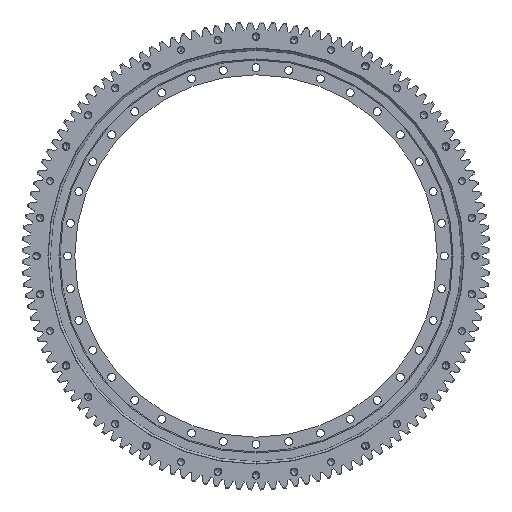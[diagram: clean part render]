
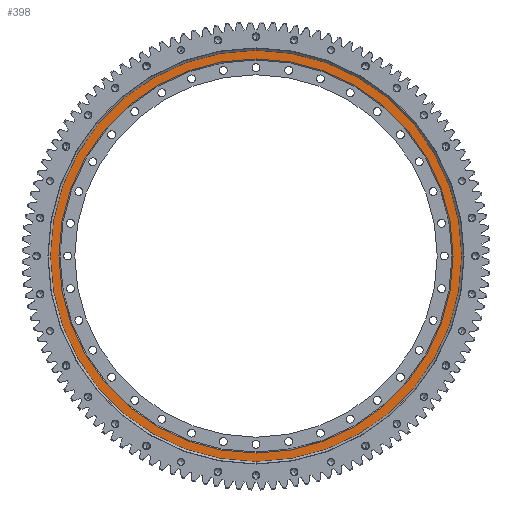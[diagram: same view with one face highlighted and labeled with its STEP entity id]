
A CAD part, front view. The second image highlights one B-rep face of the part: STEP entity #398.
In plain terms, the highlighted planar face has unit normal (0, -1, 0).
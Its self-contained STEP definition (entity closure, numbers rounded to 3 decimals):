
#237 = CIRCLE ( 'NONE', #36732, 546.5 ) ;
#307 = CIRCLE ( 'NONE', #14048, 575.5 ) ;
#398 = ADVANCED_FACE ( 'NONE', ( #4138, #27208 ), #33692, .F. ) ;
#1939 = CARTESIAN_POINT ( 'NONE',  ( 0., 32.469, 546.5 ) ) ;
#2843 = VERTEX_POINT ( 'NONE', #1939 ) ;
#2929 = DIRECTION ( 'NONE',  ( 0., -1., 0. ) ) ;
#3212 = DIRECTION ( 'NONE',  ( 0., -1., 0. ) ) ;
#4138 = FACE_BOUND ( 'NONE', #41321, .T. ) ;
#7572 = DIRECTION ( 'NONE',  ( 0., 1., 0. ) ) ;
#9594 = CARTESIAN_POINT ( 'NONE',  ( 0., 32.469, 0. ) ) ;
#11216 = ORIENTED_EDGE ( 'NONE', *, *, #14809, .F. ) ;
#13266 = CIRCLE ( 'NONE', #36038, 546.5 ) ;
#14048 = AXIS2_PLACEMENT_3D ( 'NONE', #38786, #15916, #42236 ) ;
#14079 = AXIS2_PLACEMENT_3D ( 'NONE', #17069, #7572, #26785 ) ;
#14809 = EDGE_CURVE ( 'NONE', #33604, #2843, #13266, .T. ) ;
#15337 = EDGE_CURVE ( 'NONE', #2843, #33604, #237, .T. ) ;
#15716 = DIRECTION ( 'NONE',  ( 0., 0., -1. ) ) ;
#15916 = DIRECTION ( 'NONE',  ( 0., -1., 0. ) ) ;
#16285 = ORIENTED_EDGE ( 'NONE', *, *, #23745, .T. ) ;
#17069 = CARTESIAN_POINT ( 'NONE',  ( -546.5, 32.469, 0. ) ) ;
#17092 = CARTESIAN_POINT ( 'NONE',  ( 0., 32.469, 0. ) ) ;
#17966 = CARTESIAN_POINT ( 'NONE',  ( 0., 32.469, 575.5 ) ) ;
#18195 = AXIS2_PLACEMENT_3D ( 'NONE', #25209, #3212, #15716 ) ;
#19229 = ORIENTED_EDGE ( 'NONE', *, *, #15337, .F. ) ;
#19932 = DIRECTION ( 'NONE',  ( 0., 0., -1. ) ) ;
#20532 = DIRECTION ( 'NONE',  ( 0., 0., -1. ) ) ;
#23745 = EDGE_CURVE ( 'NONE', #27038, #28196, #35423, .T. ) ;
#23793 = EDGE_CURVE ( 'NONE', #28196, #27038, #307, .T. ) ;
#25209 = CARTESIAN_POINT ( 'NONE',  ( 0., 32.469, 0. ) ) ;
#26785 = DIRECTION ( 'NONE',  ( 0., 0., 1. ) ) ;
#27038 = VERTEX_POINT ( 'NONE', #17966 ) ;
#27208 = FACE_OUTER_BOUND ( 'NONE', #33142, .T. ) ;
#28196 = VERTEX_POINT ( 'NONE', #31061 ) ;
#31061 = CARTESIAN_POINT ( 'NONE',  ( 0., 32.469, -575.5 ) ) ;
#33142 = EDGE_LOOP ( 'NONE', ( #36480, #16285 ) ) ;
#33604 = VERTEX_POINT ( 'NONE', #34991 ) ;
#33692 = PLANE ( 'NONE',  #14079 ) ;
#34991 = CARTESIAN_POINT ( 'NONE',  ( 0., 32.469, -546.5 ) ) ;
#35423 = CIRCLE ( 'NONE', #18195, 575.5 ) ;
#36038 = AXIS2_PLACEMENT_3D ( 'NONE', #9594, #2929, #19932 ) ;
#36480 = ORIENTED_EDGE ( 'NONE', *, *, #23793, .T. ) ;
#36511 = DIRECTION ( 'NONE',  ( 0., -1., 0. ) ) ;
#36732 = AXIS2_PLACEMENT_3D ( 'NONE', #17092, #36511, #20532 ) ;
#38786 = CARTESIAN_POINT ( 'NONE',  ( 0., 32.469, 0. ) ) ;
#41321 = EDGE_LOOP ( 'NONE', ( #11216, #19229 ) ) ;
#42236 = DIRECTION ( 'NONE',  ( 0., 0., -1. ) ) ;
